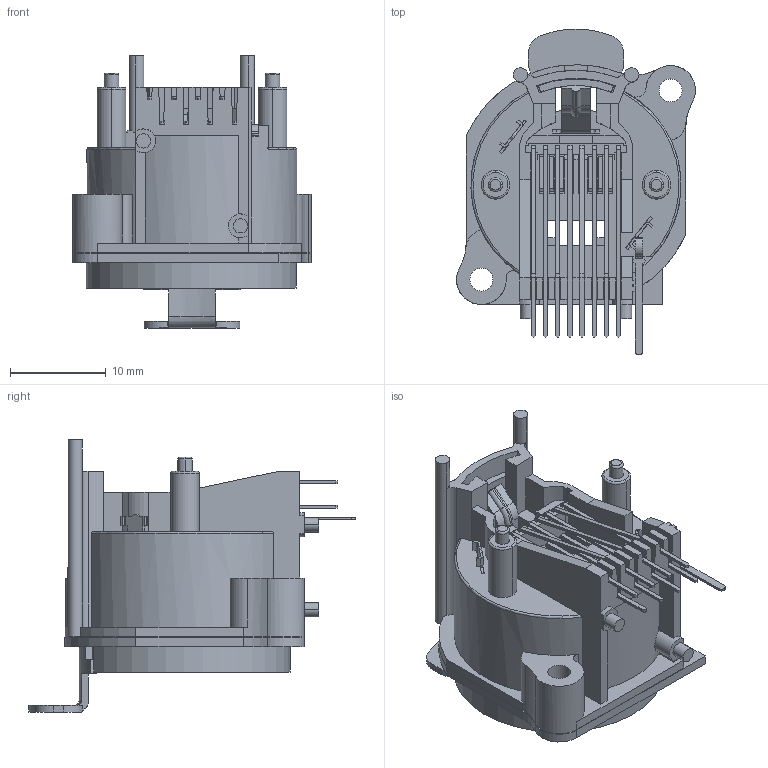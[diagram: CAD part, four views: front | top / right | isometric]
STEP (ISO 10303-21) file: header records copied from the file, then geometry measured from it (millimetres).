
FILE_DESCRIPTION((''),'2;1');
FILE_NAME('N8FAH-2','2025-06-10T',('Administrator'),(''),'PRO/ENGINEER BY PARAMETRIC TECHNOLOGY CORPORATION, 2010180','PRO/ENGINEER BY PARAMETRIC TECHNOLOGY CORPORATION, 2010180','');
FILE_SCHEMA(('CONFIG_CONTROL_DESIGN'));
Length unit declared in the file: millimetre
Products named in the file (1): N8FAH-2
Bounding box: 25 x 34.14 x 28.5 mm (x, y, z)
Volume: 4071.3 mm3; surface area: 8299.7 mm2
Topology: 1 solids, 1 shells, 1105 faces, 3191 edges, 2092 vertices
Faces by surface type: plane 840, cylinder 215, cone 30, torus 18, bspline 2
Entity records: 36468 total; most frequent: CARTESIAN_POINT 6995, ORIENTED_EDGE 6382, DIRECTION 5841, EDGE_CURVE 3191, VECTOR 2559, LINE 2559, VERTEX_POINT 2092, AXIS2_PLACEMENT_3D 1641
